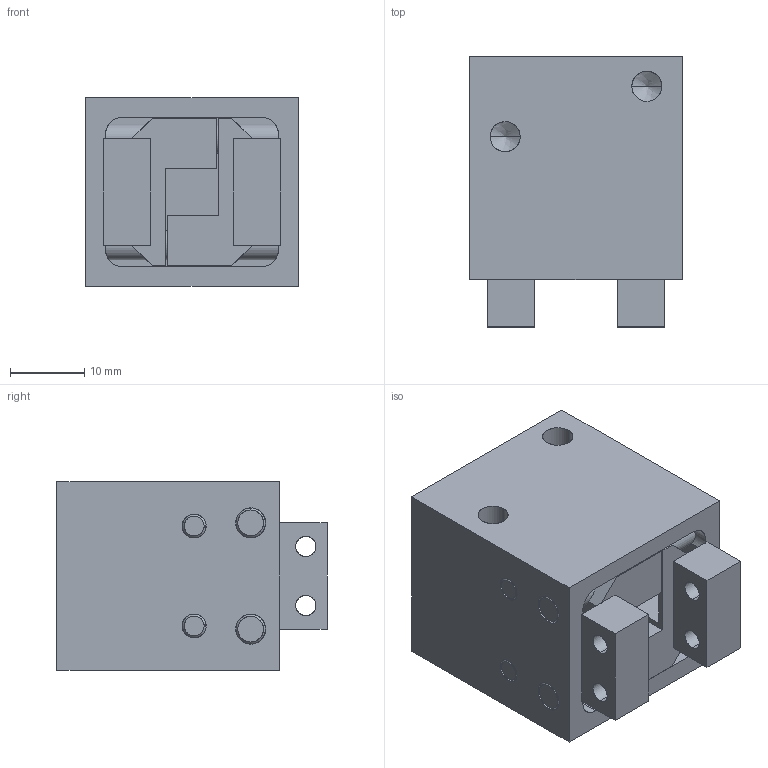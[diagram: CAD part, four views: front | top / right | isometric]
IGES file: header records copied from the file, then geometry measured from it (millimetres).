
Start section: SolidWorks IGES file using analytic representation for surfaces
Global section: file name: C:\Users\jmkuhnes\Pictures\PERSONAL\AGP\AGP-187\AGP-187 CLOSED in IN.IGS; native system: SolidWorks 2013; preprocessor: SolidWorks 2013; author: jmkuhnes; date: 141031.133742; units: inch
Bounding box: 28.57 x 36.3 x 25.4 mm (x, y, z)
Surface area: 12118.7 mm2 (no closed solid volume)
Topology: 0 solids, 0 shells, 190 faces, 3636 edges, 3616 vertices
Faces by surface type: revolution 126, bspline 64
